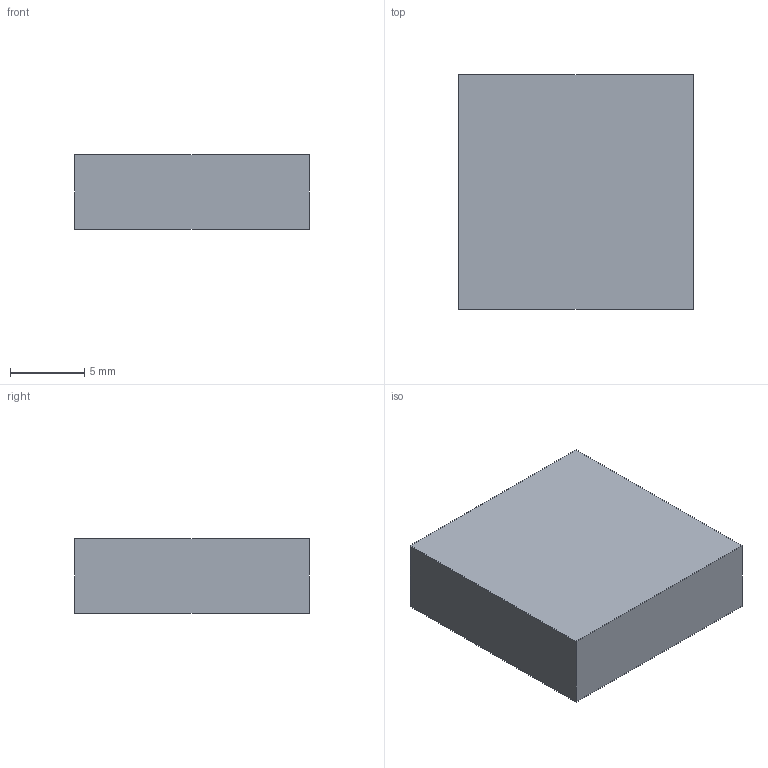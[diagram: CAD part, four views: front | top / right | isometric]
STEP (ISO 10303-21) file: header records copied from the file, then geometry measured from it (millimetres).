
FILE_DESCRIPTION(('FreeCAD Model'),'2;1');
FILE_NAME('Open CASCADE Shape Model','2026-11-24T19:32:44',('FreeCAD'),( 'FreeCAD'),'Open CASCADE STEP processor 7.6','FreeCAD','Unknown');
FILE_SCHEMA(('AUTOMOTIVE_DESIGN { 1 0 10303 214 1 1 1 1 }'));
Length unit declared in the file: millimetre
Products named in the file (1): Open CASCADE STEP translator 7.6 6
Bounding box: 15.8 x 15.8 x 5 mm (x, y, z)
Volume: 1074.6 mm3; surface area: 941.3 mm2
Topology: 1 solids, 1 shells, 18 faces, 32 edges, 20 vertices
Faces by surface type: plane 10, cone 4, cylinder 4
Full cylindrical faces by diameter (mm): 5.1 x4
Entity records: 862 total; most frequent: DIRECTION 146, CARTESIAN_POINT 135, LINE 76, VECTOR 76, ORIENTED_EDGE 64, PCURVE 64, DEFINITIONAL_REPRESENTATION 64, EDGE_CURVE 32
